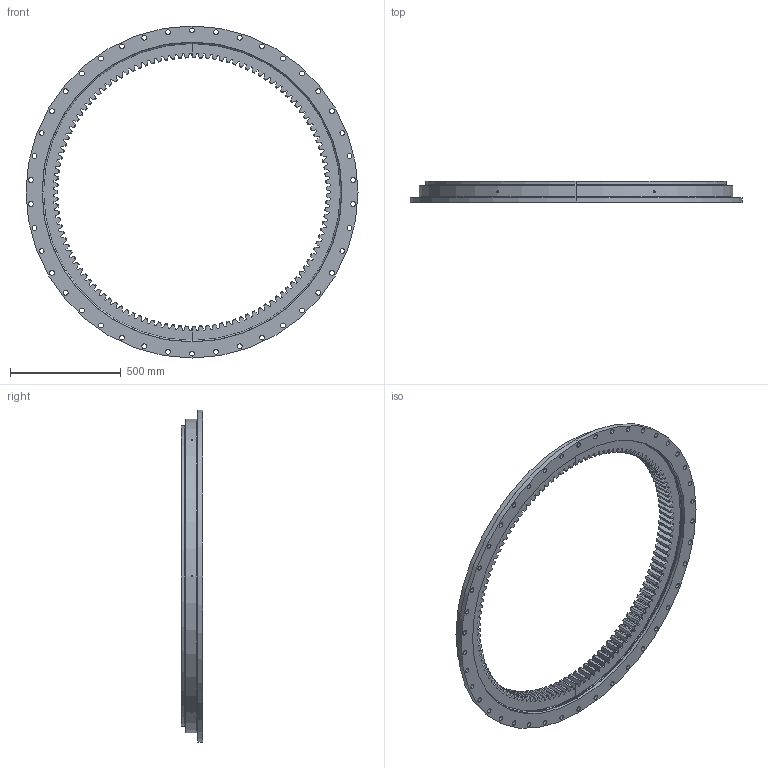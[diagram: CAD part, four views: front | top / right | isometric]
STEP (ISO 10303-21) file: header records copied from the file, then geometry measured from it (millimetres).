
FILE_DESCRIPTION (( 'STEP AP214' ), '1' );
FILE_NAME ('B1130-1-1500AC.STEP', '2022-11-24T06:37:49', ( '' ), ( '' ), 'SwSTEP 2.0', 'SolidWorks 2020', '' );
FILE_SCHEMA (( 'AUTOMOTIVE_DESIGN' ));
Length unit declared in the file: millimetre
Products named in the file (1): B1130-1-1500AC
Bounding box: 1500 x 95 x 1500 mm (x, y, z)
Volume: 32186669.5 mm3; surface area: 3220409.1 mm2
Topology: 4 solids, 4 shells, 1283 faces, 3595 edges, 2296 vertices
Faces by surface type: plane 518, cone 424, cylinder 339, torus 2
Entity records: 42188 total; most frequent: CARTESIAN_POINT 10937, ORIENTED_EDGE 7022, DIRECTION 5847, EDGE_CURVE 3511, AXIS2_PLACEMENT_3D 2296, VERTEX_POINT 2296, EDGE_LOOP 1435, FACE_OUTER_BOUND 1283
